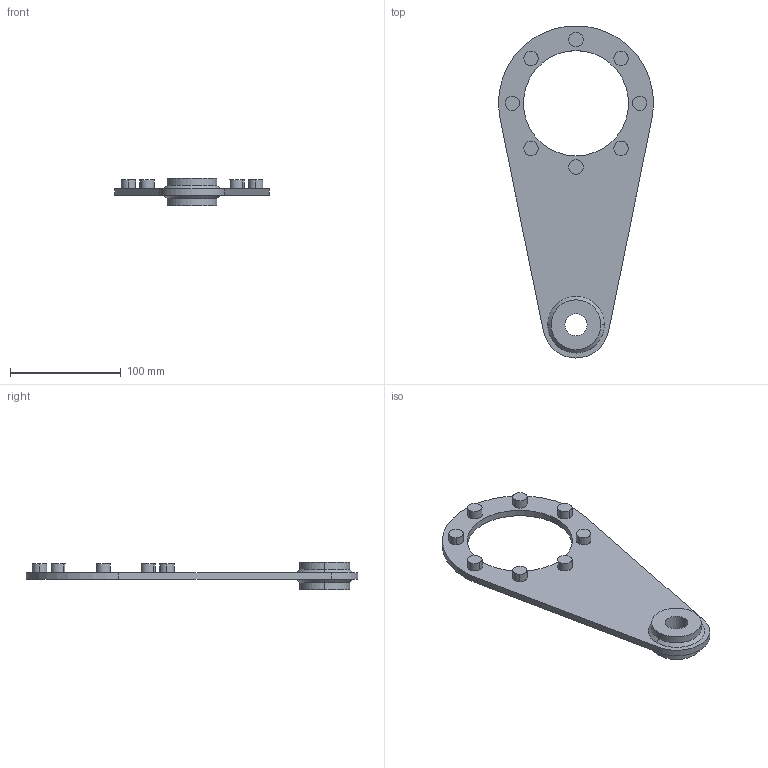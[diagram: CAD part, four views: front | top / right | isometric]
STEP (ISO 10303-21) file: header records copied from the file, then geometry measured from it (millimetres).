
FILE_DESCRIPTION(/* description */ (''),/* implementation_level */ '2;1');
FILE_NAME(/* name */ '5_BRACCIO DI REAZIONE NMRV-P075',/* time_stamp */ '2025-10-09T15:14:44+02:00',/* author */ (''),/* organization */ (''),/* preprocessor_version */ 'ST-DEVELOPER v19.2',/* originating_system */ 'Rhino 8.23',/* authorisation */ '');
FILE_SCHEMA (('CONFIG_CONTROL_DESIGN'));
Length unit declared in the file: millimetre
Products named in the file (2): Document; 75-200-p
Bounding box: 139.93 x 299.75 x 25 mm (x, y, z)
Volume: 166757.2 mm3; surface area: 56742 mm2
Topology: 1 solids, 1 shells, 44 faces, 100 edges, 68 vertices
Faces by surface type: cylinder 26, plane 14, bspline 4
Entity records: 1604 total; most frequent: CARTESIAN_POINT 416, ORIENTED_EDGE 200, DIRECTION 176, AXIS2_PLACEMENT_3D 108, EDGE_CURVE 100, VERTEX_POINT 68, TRIMMED_CURVE 64, CIRCLE 64
